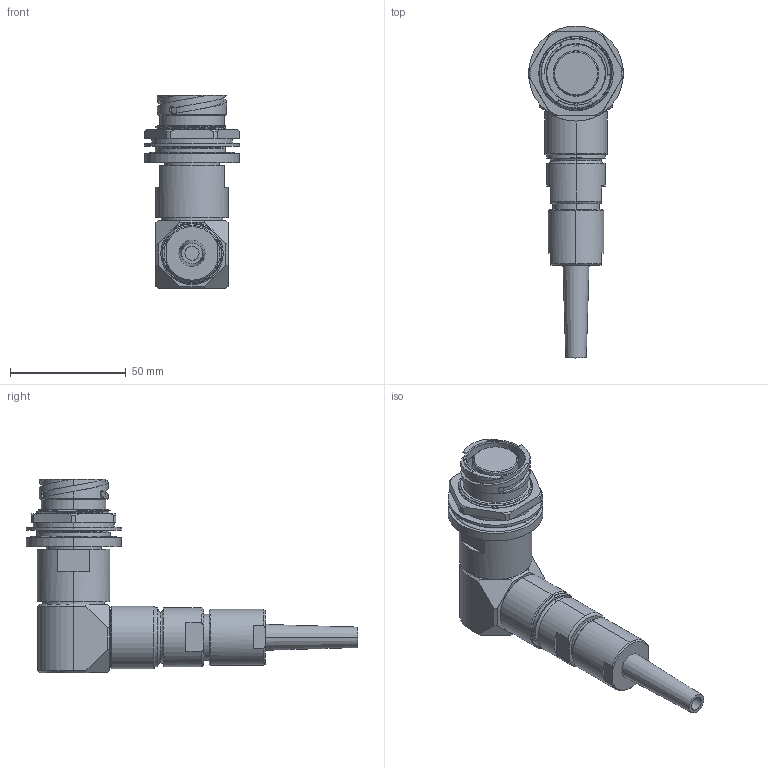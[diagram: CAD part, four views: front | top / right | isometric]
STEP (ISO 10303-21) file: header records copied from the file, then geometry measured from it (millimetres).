
FILE_DESCRIPTION (( 'STEP AP214' ), '1' );
FILE_NAME ('QLINK90-RJBX-17XX-SXXX-RA.STEP', '2025-12-16T16:58:37', ( '' ), ( '' ), 'SwSTEP 2.0', 'SolidWorks 2024', '' );
FILE_SCHEMA (( 'AUTOMOTIVE_DESIGN' ));
Length unit declared in the file: millimetre
Products named in the file (1): QLINK90-RJBX-17XX-SXXX-RA
Bounding box: 41.02 x 143.2 x 83.69 mm (x, y, z)
Volume: 98788.5 mm3; surface area: 29181.5 mm2
Topology: 2 solids, 4 shells, 320 faces, 810 edges, 519 vertices
Faces by surface type: cylinder 95, plane 84, cone 62, bspline 56, torus 23
Entity records: 25067 total; most frequent: CARTESIAN_POINT 17976, ORIENTED_EDGE 1620, DIRECTION 1326, EDGE_CURVE 810, AXIS2_PLACEMENT_3D 536, VERTEX_POINT 519, EDGE_LOOP 351, FACE_OUTER_BOUND 320
